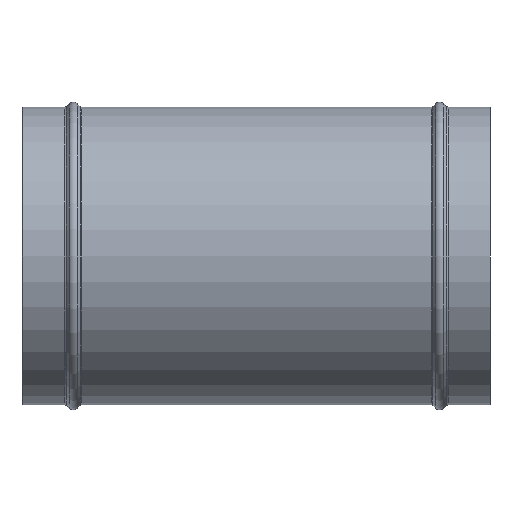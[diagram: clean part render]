
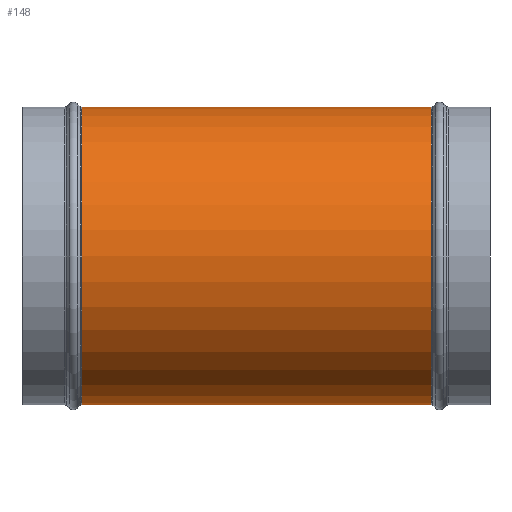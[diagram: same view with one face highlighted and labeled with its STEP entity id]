
A CAD part, front view. The second image highlights one B-rep face of the part: STEP entity #148.
In plain terms, the highlighted cylindrical face has radius 102 mm (diameter 204 mm), a full revolution.
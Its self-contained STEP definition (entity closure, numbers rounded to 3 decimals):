
#97=B_SPLINE_CURVE_WITH_KNOTS('',3,(#864,#865,#866,#867,#868,#869,#870,#871,
#872,#873,#874,#875,#876,#877,#878,#879,#880,#881,#882,#883,#884,#885,#886,
#887,#888,#889,#890,#891,#892,#893,#894,#895,#896,#897,#898,#899,#900,#901,
#902,#903,#904,#905,#906,#907,#908,#909,#910,#911,#912,#913,#914,#915),.UNSPECIFIED.,
 .T.,.F.,(2,2,2,2,2,2,2,2,2,2,2,2,2,2,2,2,2,2,2,2,2,2,2,2,2,2,2,2),(-0.031,
0.,0.031,0.063,0.094,0.125,0.156,0.188,0.25,0.313,0.375,0.438,
0.469,0.5,0.531,0.563,0.594,0.625,0.688,0.75,0.781,0.813,0.875,
0.906,0.938,0.969,1.,1.031),.UNSPECIFIED.);
#148=ADVANCED_FACE('',(#218,#219,#220),#180,.T.);
#180=CYLINDRICAL_SURFACE('',#614,102.);
#218=FACE_BOUND('',#306,.T.);
#219=FACE_BOUND('',#307,.T.);
#220=FACE_BOUND('',#308,.T.);
#306=EDGE_LOOP('',(#394));
#307=EDGE_LOOP('',(#395));
#308=EDGE_LOOP('',(#396));
#394=ORIENTED_EDGE('',*,*,#511,.F.);
#395=ORIENTED_EDGE('',*,*,#512,.T.);
#396=ORIENTED_EDGE('',*,*,#502,.F.);
#458=VERTEX_POINT('',#916);
#467=VERTEX_POINT('',#993);
#468=VERTEX_POINT('',#995);
#502=EDGE_CURVE('',#458,#458,#97,.T.);
#511=EDGE_CURVE('',#467,#467,#553,.T.);
#512=EDGE_CURVE('',#468,#468,#554,.T.);
#553=CIRCLE('',#612,102.);
#554=CIRCLE('',#613,102.);
#612=AXIS2_PLACEMENT_3D('',#992,#731,#732);
#613=AXIS2_PLACEMENT_3D('',#994,#733,#734);
#614=AXIS2_PLACEMENT_3D('',#996,#735,#736);
#731=DIRECTION('',(-1.,0.,0.));
#732=DIRECTION('',(0.,0.,1.));
#733=DIRECTION('',(-1.,0.,0.));
#734=DIRECTION('',(0.,0.,1.));
#735=DIRECTION('',(-1.,0.,0.));
#736=DIRECTION('',(0.,0.,1.));
#864=CARTESIAN_POINT('',(-75.158,102.,4.158));
#865=CARTESIAN_POINT('',(-75.158,102.,-4.158));
#866=CARTESIAN_POINT('',(-75.616,101.747,-8.228));
#867=CARTESIAN_POINT('',(-77.446,100.786,-16.195));
#868=CARTESIAN_POINT('',(-78.834,100.071,-20.083));
#869=CARTESIAN_POINT('',(-82.453,98.365,-27.237));
#870=CARTESIAN_POINT('',(-84.739,97.351,-30.606));
#871=CARTESIAN_POINT('',(-90.054,95.285,-36.533));
#872=CARTESIAN_POINT('',(-93.085,94.232,-39.118));
#873=CARTESIAN_POINT('',(-99.844,92.28,-43.523));
#874=CARTESIAN_POINT('',(-103.458,91.415,-45.274));
#875=CARTESIAN_POINT('',(-111.1,89.995,-48.035));
#876=CARTESIAN_POINT('',(-115.108,89.448,-49.028));
#877=CARTESIAN_POINT('',(-127.173,88.342,-51.009));
#878=CARTESIAN_POINT('',(-135.541,88.298,-51.071));
#879=CARTESIAN_POINT('',(-151.786,89.159,-49.552));
#880=CARTESIAN_POINT('',(-159.764,90.044,-47.987));
#881=CARTESIAN_POINT('',(-175.432,92.345,-43.393));
#882=CARTESIAN_POINT('',(-182.91,93.732,-40.434));
#883=CARTESIAN_POINT('',(-197.041,96.661,-32.823));
#884=CARTESIAN_POINT('',(-203.814,98.241,-28.134));
#885=CARTESIAN_POINT('',(-212.045,100.259,-19.022));
#886=CARTESIAN_POINT('',(-214.396,100.855,-15.699));
#887=CARTESIAN_POINT('',(-217.839,101.737,-8.226));
#888=CARTESIAN_POINT('',(-218.848,102.001,-4.103));
#889=CARTESIAN_POINT('',(-218.836,101.998,4.177));
#890=CARTESIAN_POINT('',(-217.817,101.731,8.288));
#891=CARTESIAN_POINT('',(-214.384,100.852,15.713));
#892=CARTESIAN_POINT('',(-211.971,100.241,19.112));
#893=CARTESIAN_POINT('',(-206.534,98.908,25.115));
#894=CARTESIAN_POINT('',(-203.456,98.172,27.794));
#895=CARTESIAN_POINT('',(-196.927,96.679,32.61));
#896=CARTESIAN_POINT('',(-193.506,95.928,34.727));
#897=CARTESIAN_POINT('',(-182.89,93.728,40.445));
#898=CARTESIAN_POINT('',(-175.27,92.319,43.447));
#899=CARTESIAN_POINT('',(-159.736,90.042,47.988));
#900=CARTESIAN_POINT('',(-151.799,89.159,49.552));
#901=CARTESIAN_POINT('',(-139.582,88.512,50.693));
#902=CARTESIAN_POINT('',(-135.428,88.412,50.865));
#903=CARTESIAN_POINT('',(-127.21,88.513,50.69));
#904=CARTESIAN_POINT('',(-123.13,88.712,50.347));
#905=CARTESIAN_POINT('',(-110.995,89.827,48.347));
#906=CARTESIAN_POINT('',(-103.139,91.325,45.681));
#907=CARTESIAN_POINT('',(-93.059,94.241,39.096));
#908=CARTESIAN_POINT('',(-90.055,95.285,36.533));
#909=CARTESIAN_POINT('',(-84.747,97.347,30.615));
#910=CARTESIAN_POINT('',(-82.458,98.363,27.245));
#911=CARTESIAN_POINT('',(-78.836,100.07,20.088));
#912=CARTESIAN_POINT('',(-77.446,100.786,16.197));
#913=CARTESIAN_POINT('',(-75.617,101.747,8.23));
#914=CARTESIAN_POINT('',(-75.158,102.,4.158));
#915=CARTESIAN_POINT('',(-75.158,102.,-4.158));
#916=CARTESIAN_POINT('',(-75.158,102.,0.));
#992=CARTESIAN_POINT('',(-279.722,0.,0.));
#993=CARTESIAN_POINT('',(-279.722,0.,102.));
#994=CARTESIAN_POINT('',(-40.278,0.,0.));
#995=CARTESIAN_POINT('',(-40.278,0.,102.));
#996=CARTESIAN_POINT('',(0.,0.,0.));
